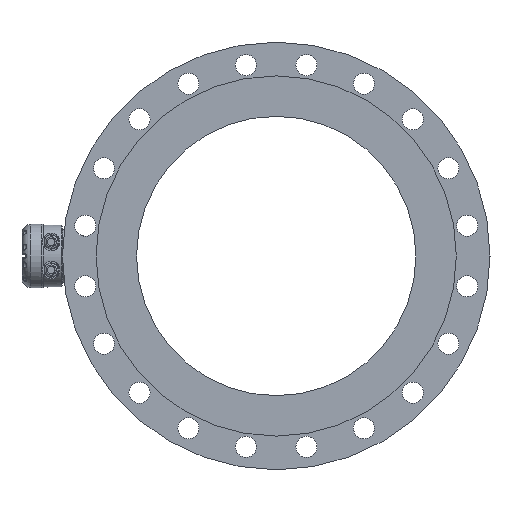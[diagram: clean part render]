
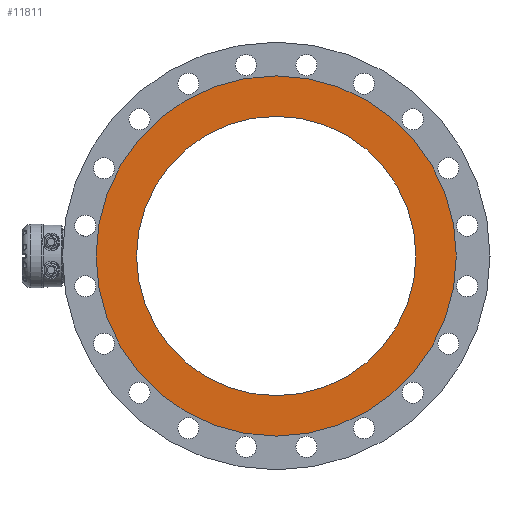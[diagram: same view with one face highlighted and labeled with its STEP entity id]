
A CAD part, left-side view. The second image highlights one B-rep face of the part: STEP entity #11811.
In plain terms, the highlighted planar face has unit normal (-1, 0, 0).
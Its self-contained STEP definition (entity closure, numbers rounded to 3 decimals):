
#555 = EDGE_LOOP ( 'NONE', ( #10221 ) ) ;
#609 = EDGE_LOOP ( 'NONE', ( #10222 ) ) ;
#1138 = EDGE_CURVE ( 'NONE', #4667, #4667, #10494, .T. ) ;
#2579 = PLANE ( 'NONE',  #11336 ) ;
#2582 = CARTESIAN_POINT ( 'NONE',  ( -394.805, -96.017, -10.543 ) ) ;
#2588 = DIRECTION ( 'NONE',  ( -1., 0., 0. ) ) ;
#2589 = DIRECTION ( 'NONE',  ( 0., 0., 1. ) ) ;
#4667 = VERTEX_POINT ( 'NONE', #4668 ) ;
#4668 = CARTESIAN_POINT ( 'NONE',  ( -394.805, -334.517, -249.043 ) ) ;
#4828 = VERTEX_POINT ( 'NONE', #4829 ) ;
#4829 = CARTESIAN_POINT ( 'NONE',  ( -394.805, -334.517, 296.957 ) ) ;
#7722 = DIRECTION ( 'NONE',  ( 1., 0., 0. ) ) ;
#7803 = DIRECTION ( 'NONE',  ( 0., 0., -1. ) ) ;
#7964 = CARTESIAN_POINT ( 'NONE',  ( -394.805, -334.517, -10.543 ) ) ;
#8423 = CIRCLE ( 'NONE', #11099, 307.5 ) ;
#9222 = FACE_OUTER_BOUND ( 'NONE', #609, .T. ) ;
#9223 = FACE_BOUND ( 'NONE', #555, .T. ) ;
#10221 = ORIENTED_EDGE ( 'NONE', *, *, #1138, .T. ) ;
#10222 = ORIENTED_EDGE ( 'NONE', *, *, #10716, .T. ) ;
#10494 = CIRCLE ( 'NONE', #10936, 238.5 ) ;
#10716 = EDGE_CURVE ( 'NONE', #4828, #4828, #8423, .T. ) ;
#10936 = AXIS2_PLACEMENT_3D ( 'NONE', #7964, #7722, #7803 ) ;
#11099 = AXIS2_PLACEMENT_3D ( 'NONE', #13410, #13416, #13417 ) ;
#11336 = AXIS2_PLACEMENT_3D ( 'NONE', #2582, #2588, #2589 ) ;
#11811 = ADVANCED_FACE ( 'NONE', ( #9223, #9222 ), #2579, .T. ) ;
#13410 = CARTESIAN_POINT ( 'NONE',  ( -394.805, -334.517, -10.543 ) ) ;
#13416 = DIRECTION ( 'NONE',  ( -1., 0., 0. ) ) ;
#13417 = DIRECTION ( 'NONE',  ( 0., 0., 1. ) ) ;
